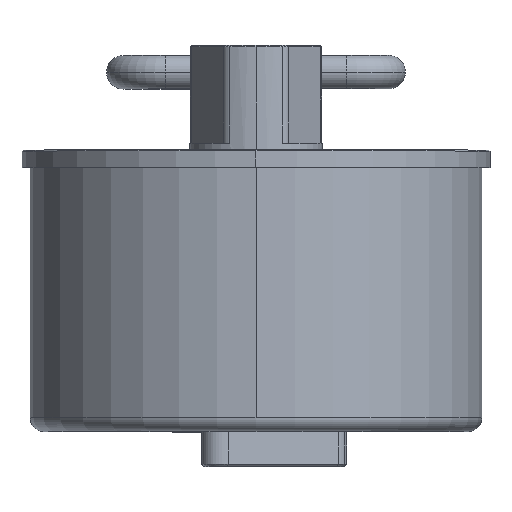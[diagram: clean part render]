
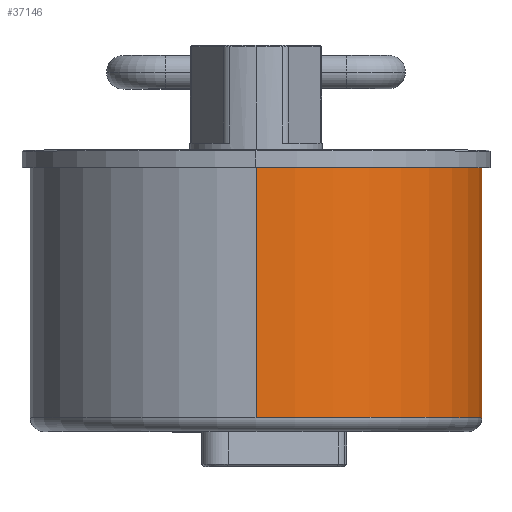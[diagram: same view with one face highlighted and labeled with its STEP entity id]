
A CAD part, top view. The second image highlights one B-rep face of the part: STEP entity #37146.
In plain terms, the highlighted cylindrical face has radius 32.35 mm (diameter 64.7 mm), a partial arc.
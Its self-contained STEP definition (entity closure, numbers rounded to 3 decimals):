
#643 = EDGE_CURVE ( 'NONE', #13470, #4902, #50619, .T. ) ;
#4902 = VERTEX_POINT ( 'NONE', #47441 ) ;
#7145 = FACE_OUTER_BOUND ( 'NONE', #33925, .T. ) ;
#7783 = CARTESIAN_POINT ( 'NONE',  ( 0., -43.3, 0. ) ) ;
#9032 = AXIS2_PLACEMENT_3D ( 'NONE', #12865, #24819, #25352 ) ;
#9054 = DIRECTION ( 'NONE',  ( 0., 1., 0. ) ) ;
#9968 = VERTEX_POINT ( 'NONE', #43642 ) ;
#10096 = CARTESIAN_POINT ( 'NONE',  ( 0., -7.5, 32.35 ) ) ;
#10279 = ORIENTED_EDGE ( 'NONE', *, *, #20722, .F. ) ;
#11826 = VECTOR ( 'NONE', #41256, 1000. ) ;
#12313 = ORIENTED_EDGE ( 'NONE', *, *, #32082, .T. ) ;
#12865 = CARTESIAN_POINT ( 'NONE',  ( 0., -44.526, 0. ) ) ;
#13470 = VERTEX_POINT ( 'NONE', #10096 ) ;
#14280 = ORIENTED_EDGE ( 'NONE', *, *, #52363, .T. ) ;
#18326 = DIRECTION ( 'NONE',  ( 0., 0., 1. ) ) ;
#19548 = DIRECTION ( 'NONE',  ( 0., 1., 0. ) ) ;
#20656 = DIRECTION ( 'NONE',  ( -1., 0., 0. ) ) ;
#20722 = EDGE_CURVE ( 'NONE', #4902, #46128, #44067, .T. ) ;
#21620 = VERTEX_POINT ( 'NONE', #48480 ) ;
#22725 = CARTESIAN_POINT ( 'NONE',  ( 0., -44.526, -32.35 ) ) ;
#23089 = CYLINDRICAL_SURFACE ( 'NONE', #9032, 32.35 ) ;
#23128 = AXIS2_PLACEMENT_3D ( 'NONE', #45621, #9054, #20656 ) ;
#24819 = DIRECTION ( 'NONE',  ( 0., -1., 0. ) ) ;
#25236 = LINE ( 'NONE', #45954, #11826 ) ;
#25352 = DIRECTION ( 'NONE',  ( 0., 0., -1. ) ) ;
#26369 = ORIENTED_EDGE ( 'NONE', *, *, #26523, .T. ) ;
#26523 = EDGE_CURVE ( 'NONE', #21620, #9968, #29233, .T. ) ;
#29233 = CIRCLE ( 'NONE', #43699, 32.35 ) ;
#30781 = CARTESIAN_POINT ( 'NONE',  ( 0., -7.5, 0. ) ) ;
#32082 = EDGE_CURVE ( 'NONE', #9968, #46128, #47213, .T. ) ;
#33193 = ORIENTED_EDGE ( 'NONE', *, *, #643, .F. ) ;
#33925 = EDGE_LOOP ( 'NONE', ( #33193, #14280, #26369, #12313, #10279 ) ) ;
#35893 = DIRECTION ( 'NONE',  ( -1., 0., 0. ) ) ;
#37146 = ADVANCED_FACE ( 'NONE', ( #7145 ), #23089, .T. ) ;
#38383 = CARTESIAN_POINT ( 'NONE',  ( 0., -43.3, -32.35 ) ) ;
#38568 = DIRECTION ( 'NONE',  ( 0., 1., 0. ) ) ;
#40853 = VECTOR ( 'NONE', #43189, 1000. ) ;
#41256 = DIRECTION ( 'NONE',  ( 0., -1., 0. ) ) ;
#43189 = DIRECTION ( 'NONE',  ( 0., -1., 0. ) ) ;
#43642 = CARTESIAN_POINT ( 'NONE',  ( 32.35, -43.3, 0. ) ) ;
#43699 = AXIS2_PLACEMENT_3D ( 'NONE', #7783, #19548, #35893 ) ;
#44006 = AXIS2_PLACEMENT_3D ( 'NONE', #30781, #38568, #18326 ) ;
#44067 = LINE ( 'NONE', #22725, #40853 ) ;
#45621 = CARTESIAN_POINT ( 'NONE',  ( 0., -43.3, 0. ) ) ;
#45954 = CARTESIAN_POINT ( 'NONE',  ( 0., -44.526, 32.35 ) ) ;
#46128 = VERTEX_POINT ( 'NONE', #38383 ) ;
#47213 = CIRCLE ( 'NONE', #23128, 32.35 ) ;
#47441 = CARTESIAN_POINT ( 'NONE',  ( 0., -7.5, -32.35 ) ) ;
#48480 = CARTESIAN_POINT ( 'NONE',  ( 0., -43.3, 32.35 ) ) ;
#50619 = CIRCLE ( 'NONE', #44006, 32.35 ) ;
#52363 = EDGE_CURVE ( 'NONE', #13470, #21620, #25236, .T. ) ;
